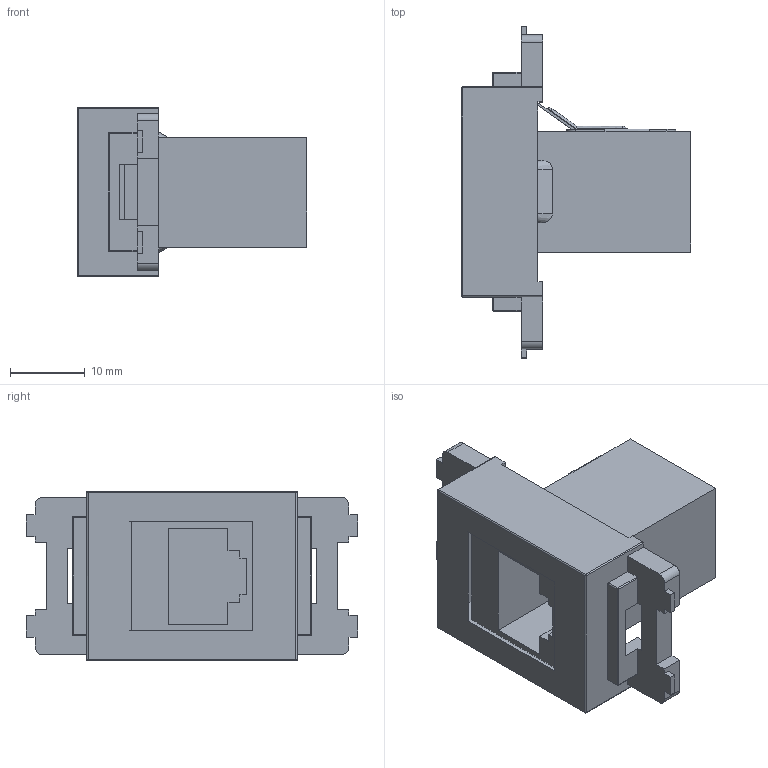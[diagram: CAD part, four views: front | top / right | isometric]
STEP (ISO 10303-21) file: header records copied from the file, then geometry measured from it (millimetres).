
FILE_DESCRIPTION(('FreeCAD Model'),'2;1');
FILE_NAME('Open CASCADE Shape Model','2026-05-12T10:28:07',(''),(''), 'Open CASCADE STEP processor 7.8','FreeCAD','Unknown');
FILE_SCHEMA(('AUTOMOTIVE_DESIGN { 1 0 10303 214 1 1 1 1 }'));
Length unit declared in the file: millimetre
Products named in the file (3): CC_C6S_WH_KV; SY-NWT-KV-xx; 3013AJSLQF6WH
Assembly tree (2 placements, depth 2):
  CC_C6S_WH_KV
    SY-NWT-KV-xx
    3013AJSLQF6WH
Bounding box: 30.58 x 44.3 x 22.65 mm (x, y, z)
Volume: 8430.3 mm3; surface area: 7879.1 mm2
Topology: 2 solids, 2 shells, 261 faces, 728 edges, 470 vertices
Faces by surface type: bspline 261
Entity records: 12454 total; most frequent: CARTESIAN_POINT 7995, ORIENTED_EDGE 1448, EDGE_CURVE 724, B_SPLINE_CURVE_WITH_KNOTS 724, VERTEX_POINT 470, FACE_BOUND 270, EDGE_LOOP 270, ADVANCED_FACE 261
